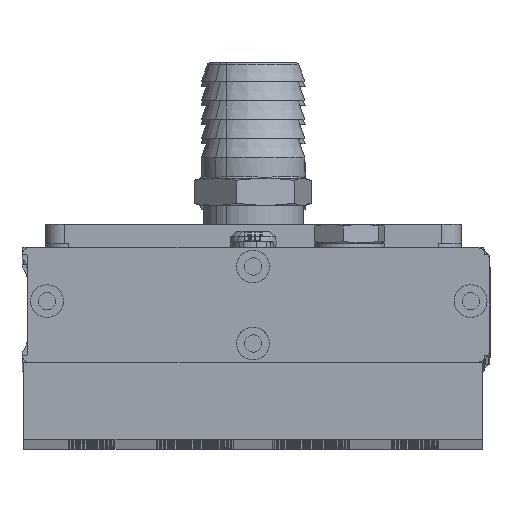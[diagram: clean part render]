
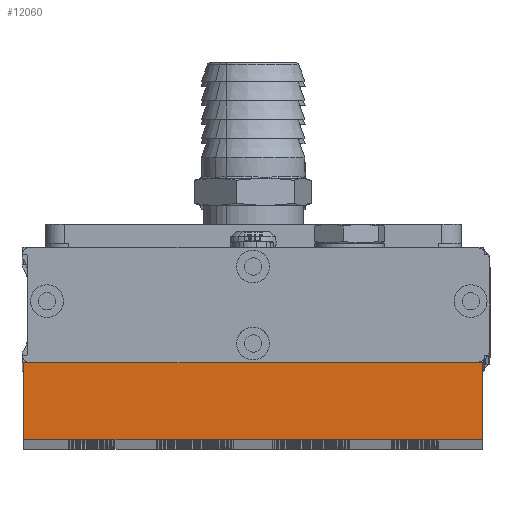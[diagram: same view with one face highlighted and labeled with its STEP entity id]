
A CAD part, top view. The second image highlights one B-rep face of the part: STEP entity #12060.
In plain terms, the highlighted planar face has unit normal (0, 0, 1).
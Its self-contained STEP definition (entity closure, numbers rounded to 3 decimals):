
#1083 = VECTOR ( 'NONE', #33080, 1000. ) ;
#2837 = ORIENTED_EDGE ( 'NONE', *, *, #58598, .T. ) ;
#3668 = VECTOR ( 'NONE', #50029, 1000. ) ;
#4738 = ORIENTED_EDGE ( 'NONE', *, *, #72125, .F. ) ;
#5231 = CARTESIAN_POINT ( 'NONE',  ( -82.6, -51.3, 697. ) ) ;
#5417 = CARTESIAN_POINT ( 'NONE',  ( 36.4, -71.3, 697. ) ) ;
#7041 = EDGE_CURVE ( 'NONE', #36758, #49367, #16032, .T. ) ;
#11201 = LINE ( 'NONE', #25049, #42716 ) ;
#12060 = ADVANCED_FACE ( 'NONE', ( #22720 ), #23290, .F. ) ;
#12287 = EDGE_LOOP ( 'NONE', ( #2837, #19699, #4738, #58310 ) ) ;
#12839 = LINE ( 'NONE', #65457, #39088 ) ;
#16032 = LINE ( 'NONE', #5231, #3668 ) ;
#19699 = ORIENTED_EDGE ( 'NONE', *, *, #56521, .F. ) ;
#21424 = AXIS2_PLACEMENT_3D ( 'NONE', #41559, #47919, #64418 ) ;
#22720 = FACE_OUTER_BOUND ( 'NONE', #12287, .T. ) ;
#23290 = PLANE ( 'NONE',  #21424 ) ;
#25049 = CARTESIAN_POINT ( 'NONE',  ( -82.6, -71.3, 697. ) ) ;
#33080 = DIRECTION ( 'NONE',  ( 0., -1., 0. ) ) ;
#36758 = VERTEX_POINT ( 'NONE', #44395 ) ;
#37917 = VERTEX_POINT ( 'NONE', #5417 ) ;
#39088 = VECTOR ( 'NONE', #42301, 1000. ) ;
#41559 = CARTESIAN_POINT ( 'NONE',  ( -82.6, -51.3, 697. ) ) ;
#42301 = DIRECTION ( 'NONE',  ( 1., 0., 0. ) ) ;
#42716 = VECTOR ( 'NONE', #47595, 1000. ) ;
#44395 = CARTESIAN_POINT ( 'NONE',  ( -82.6, -51.3, 697. ) ) ;
#47271 = VERTEX_POINT ( 'NONE', #50085 ) ;
#47595 = DIRECTION ( 'NONE',  ( 1., 0., 0. ) ) ;
#47919 = DIRECTION ( 'NONE',  ( 0., 0., -1. ) ) ;
#49367 = VERTEX_POINT ( 'NONE', #61256 ) ;
#50029 = DIRECTION ( 'NONE',  ( 0., -1., 0. ) ) ;
#50085 = CARTESIAN_POINT ( 'NONE',  ( 36.4, -51.3, 697. ) ) ;
#54582 = LINE ( 'NONE', #61106, #1083 ) ;
#56521 = EDGE_CURVE ( 'NONE', #47271, #37917, #54582, .T. ) ;
#58310 = ORIENTED_EDGE ( 'NONE', *, *, #7041, .T. ) ;
#58598 = EDGE_CURVE ( 'NONE', #49367, #37917, #11201, .T. ) ;
#61106 = CARTESIAN_POINT ( 'NONE',  ( 36.4, -51.3, 697. ) ) ;
#61256 = CARTESIAN_POINT ( 'NONE',  ( -82.6, -71.3, 697. ) ) ;
#64418 = DIRECTION ( 'NONE',  ( 0., 1., 0. ) ) ;
#65457 = CARTESIAN_POINT ( 'NONE',  ( -82.6, -51.3, 697. ) ) ;
#72125 = EDGE_CURVE ( 'NONE', #36758, #47271, #12839, .T. ) ;
